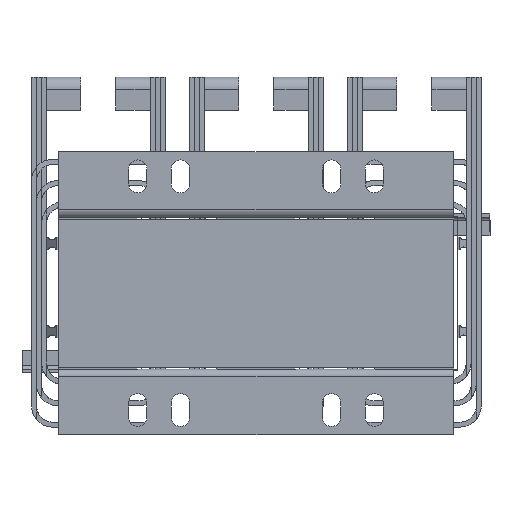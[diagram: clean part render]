
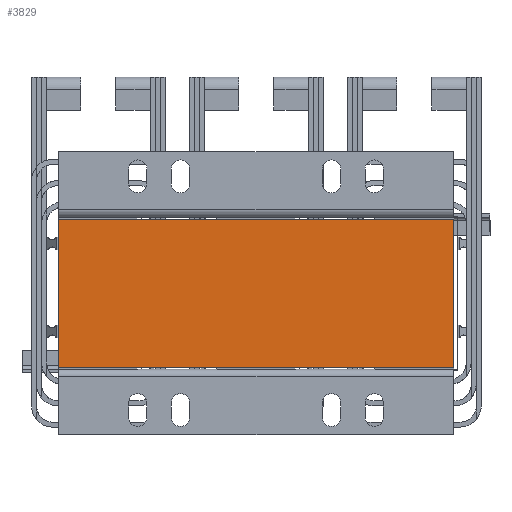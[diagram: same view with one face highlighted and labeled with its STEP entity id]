
A CAD part, front view. The second image highlights one B-rep face of the part: STEP entity #3829.
In plain terms, the highlighted planar face has unit normal (0, -1, 0).
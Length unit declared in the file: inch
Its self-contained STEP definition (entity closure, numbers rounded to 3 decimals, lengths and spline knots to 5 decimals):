
#212 = DIRECTION ( 'NONE',  ( 0., 0., -1. ) ) ;
#479 = ORIENTED_EDGE ( 'NONE', *, *, #18801, .F. ) ;
#2091 = EDGE_CURVE ( 'NONE', #27428, #30848, #10912, .T. ) ;
#2232 = VECTOR ( 'NONE', #12148, 39.37008 ) ;
#2416 = CARTESIAN_POINT ( 'NONE',  ( -6., -1.2, 2.25 ) ) ;
#2592 = CARTESIAN_POINT ( 'NONE',  ( 6., -1.2, 2.25 ) ) ;
#3829 = ADVANCED_FACE ( 'NONE', ( #25143 ), #32881, .F. ) ;
#5225 = VERTEX_POINT ( 'NONE', #12546 ) ;
#7509 = CARTESIAN_POINT ( 'NONE',  ( 6., -1.2, 2.25 ) ) ;
#10441 = CARTESIAN_POINT ( 'NONE',  ( -6., -1.2, 2.25 ) ) ;
#10638 = EDGE_CURVE ( 'NONE', #30848, #5225, #20668, .T. ) ;
#10912 = LINE ( 'NONE', #28164, #27643 ) ;
#10997 = DIRECTION ( 'NONE',  ( 0., 0., -1. ) ) ;
#11224 = ORIENTED_EDGE ( 'NONE', *, *, #21633, .F. ) ;
#11956 = VERTEX_POINT ( 'NONE', #7509 ) ;
#12148 = DIRECTION ( 'NONE',  ( 1., 0., 0. ) ) ;
#12285 = DIRECTION ( 'NONE',  ( 1., 0., 0. ) ) ;
#12546 = CARTESIAN_POINT ( 'NONE',  ( 6., -1.2, -2.25 ) ) ;
#12724 = VECTOR ( 'NONE', #12285, 39.37008 ) ;
#12857 = DIRECTION ( 'NONE',  ( 0., 1., 0. ) ) ;
#14373 = AXIS2_PLACEMENT_3D ( 'NONE', #2416, #12857, #20267 ) ;
#14404 = CARTESIAN_POINT ( 'NONE',  ( -6., -1.2, -2.25 ) ) ;
#17960 = VECTOR ( 'NONE', #10997, 39.37008 ) ;
#18132 = CARTESIAN_POINT ( 'NONE',  ( -6., -1.2, -2.25 ) ) ;
#18801 = EDGE_CURVE ( 'NONE', #27428, #11956, #29800, .T. ) ;
#19570 = LINE ( 'NONE', #2592, #17960 ) ;
#20267 = DIRECTION ( 'NONE',  ( 0., 0., 1. ) ) ;
#20668 = LINE ( 'NONE', #14404, #12724 ) ;
#21633 = EDGE_CURVE ( 'NONE', #11956, #5225, #19570, .T. ) ;
#22704 = ORIENTED_EDGE ( 'NONE', *, *, #2091, .T. ) ;
#23516 = ORIENTED_EDGE ( 'NONE', *, *, #10638, .T. ) ;
#25143 = FACE_OUTER_BOUND ( 'NONE', #29248, .T. ) ;
#27428 = VERTEX_POINT ( 'NONE', #10441 ) ;
#27643 = VECTOR ( 'NONE', #212, 39.37008 ) ;
#28164 = CARTESIAN_POINT ( 'NONE',  ( -6., -1.2, 2.25 ) ) ;
#29248 = EDGE_LOOP ( 'NONE', ( #23516, #11224, #479, #22704 ) ) ;
#29800 = LINE ( 'NONE', #32475, #2232 ) ;
#30848 = VERTEX_POINT ( 'NONE', #18132 ) ;
#32475 = CARTESIAN_POINT ( 'NONE',  ( -6., -1.2, 2.25 ) ) ;
#32881 = PLANE ( 'NONE',  #14373 ) ;
